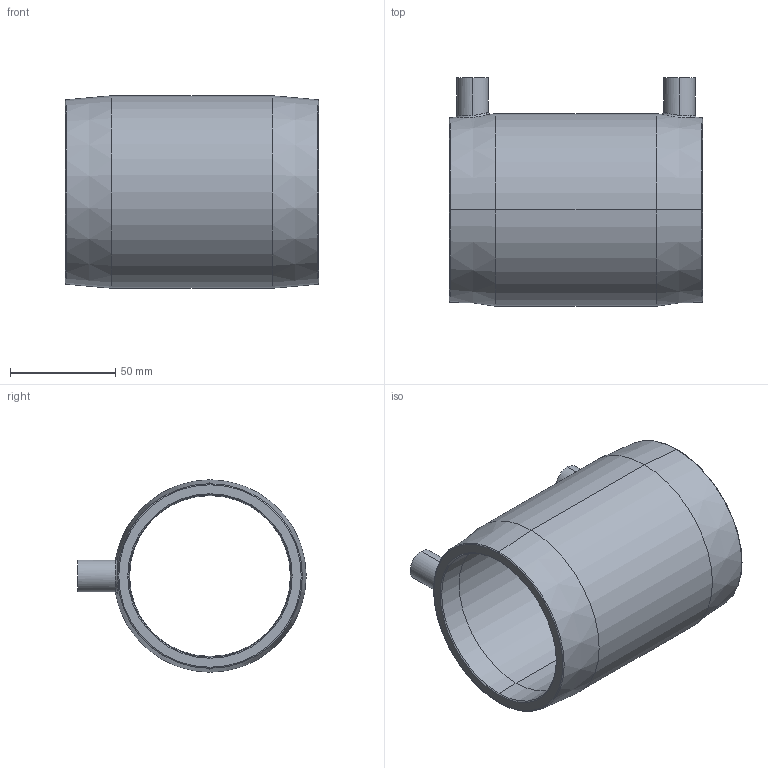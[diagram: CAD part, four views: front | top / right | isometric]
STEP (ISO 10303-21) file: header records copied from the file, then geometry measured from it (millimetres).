
FILE_DESCRIPTION (( 'STEP AP214' ), '1' );
FILE_NAME ('CBKHA75.STEP', '2018-09-19T14:05:48', ( '' ), ( '' ), 'SwSTEP 2.0', 'SolidWorks 2017', '' );
FILE_SCHEMA (( 'AUTOMOTIVE_DESIGN' ));
Length unit declared in the file: millimetre
Products named in the file (1): CBKHA75
Bounding box: 120 x 108.37 x 91.3 mm (x, y, z)
Volume: 228102.2 mm3; surface area: 68721.3 mm2
Topology: 1 solids, 1 shells, 70 faces, 144 edges, 84 vertices
Faces by surface type: cone 24, cylinder 20, torus 12, plane 10, bspline 4
Entity records: 2846 total; most frequent: CARTESIAN_POINT 1189, DIRECTION 354, ORIENTED_EDGE 288, AXIS2_PLACEMENT_3D 155, EDGE_CURVE 144, CIRCLE 88, VERTEX_POINT 84, EDGE_LOOP 80
